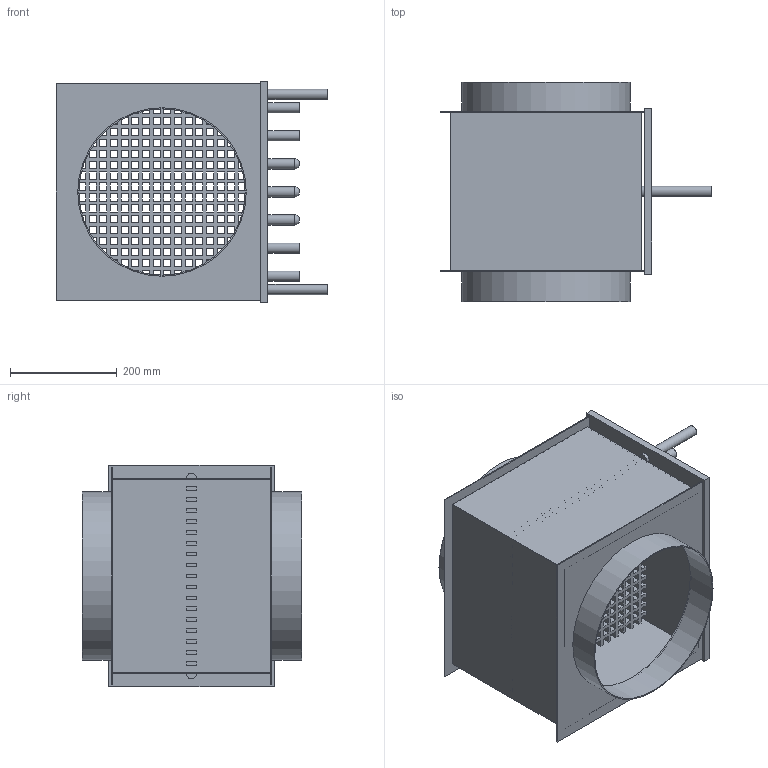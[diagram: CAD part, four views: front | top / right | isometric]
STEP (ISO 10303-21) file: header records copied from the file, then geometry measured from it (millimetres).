
FILE_DESCRIPTION(/* description */ (''),/* implementation_level */ '2;1');
FILE_NAME(/* name */ 'Z:\Output\WHR_315-09484-003.stp',/* time_stamp */ '2017-11-10T11:55:06+01:00',/* author */ ('jayeshpanchal'),/* organization */ (''),/* preprocessor_version */ 'ST-DEVELOPER v16.5',/* originating_system */ 'Autodesk Inventor 2017',/* authorisation */ '');
FILE_SCHEMA (('AUTOMOTIVE_DESIGN { 1 0 10303 214 3 1 1 }'));
Length unit declared in the file: millimetre
Products named in the file (1): WHRR-1
Bounding box: 508.2 x 410 x 415 mm (x, y, z)
Volume: 4670041.3 mm3; surface area: 2153365.1 mm2
Topology: 1 solids, 1 shells, 1290 faces, 4022 edges, 2681 vertices
Faces by surface type: plane 1265, cylinder 22, bspline 3
Full cylindrical faces by diameter (mm): 19.05 x18, 311 x2, 315 x2
Entity records: 45094 total; most frequent: CARTESIAN_POINT 8052, ORIENTED_EDGE 7996, DIRECTION 6626, EDGE_CURVE 3998, LINE 3940, VECTOR 3940, VERTEX_POINT 2679, EDGE_LOOP 1927
